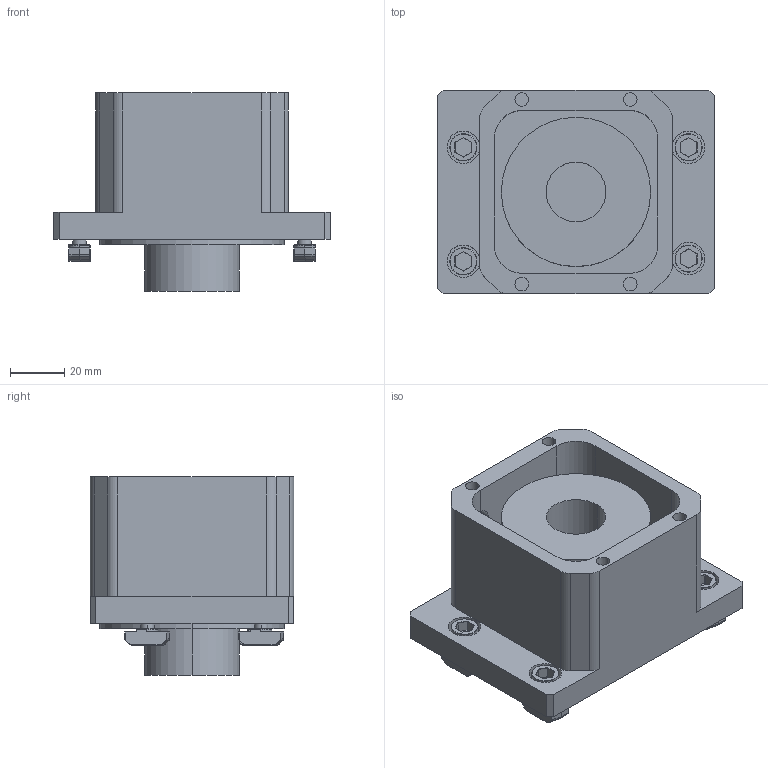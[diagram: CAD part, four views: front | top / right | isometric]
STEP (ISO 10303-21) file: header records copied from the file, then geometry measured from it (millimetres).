
FILE_DESCRIPTION((''),'2;1');
FILE_NAME('CK-80-X_ASM','2017-03-15T',('Owner'),(''),'PRO/ENGINEER BY PARAMETRIC TECHNOLOGY CORPORATION, 2009440','PRO/ENGINEER BY PARAMETRIC TECHNOLOGY CORPORATION, 2009440','');
FILE_SCHEMA(('CONFIG_CONTROL_DESIGN'));
Length unit declared in the file: millimetre
Products named in the file (4): CK-80-22; M6X10_COUNTERSINK; TN-M6; CK-80-X_ASM
Assembly tree (9 placements, depth 2):
  CK-80-X_ASM
    CK-80-22
    M6X10_COUNTERSINK  x4
    TN-M6  x4
Bounding box: 102 x 75 x 73 mm (x, y, z)
Volume: 250438.4 mm3; surface area: 58052.4 mm2
Topology: 9 solids, 9 shells, 497 faces, 1149 edges, 686 vertices
Faces by surface type: cylinder 230, plane 163, cone 40, sphere 24, torus 24, bspline 16
Entity records: 5790 total; most frequent: CARTESIAN_POINT 1282, DIRECTION 969, ORIENTED_EDGE 882, EDGE_CURVE 441, AXIS2_PLACEMENT_3D 366, VERTEX_POINT 272, VECTOR 237, LINE 237
